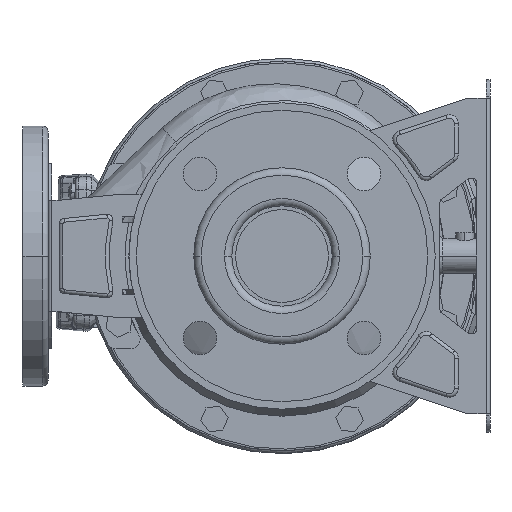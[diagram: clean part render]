
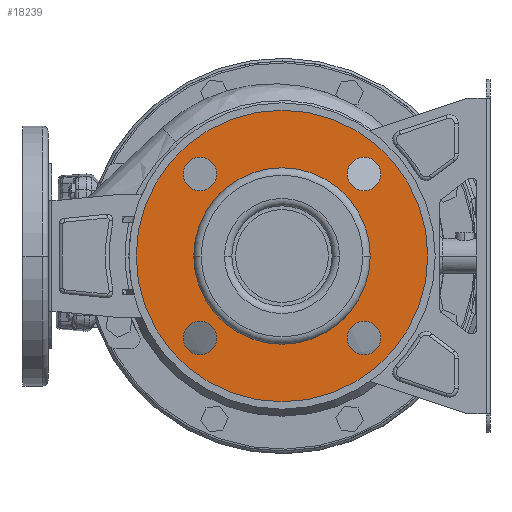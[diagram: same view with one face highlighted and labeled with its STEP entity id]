
A CAD part, front view. The second image highlights one B-rep face of the part: STEP entity #18239.
In plain terms, the highlighted planar face has unit normal (0, -1, 0).
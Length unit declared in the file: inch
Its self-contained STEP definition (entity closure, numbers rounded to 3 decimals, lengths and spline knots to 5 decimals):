
#2091 = CARTESIAN_POINT ( 'NONE',  ( -2.09426, -6.92913, -1.73993 ) ) ;
#2236 = CARTESIAN_POINT ( 'NONE',  ( 1.73993, -6.92913, -2.09426 ) ) ;
#4129 = VERTEX_POINT ( 'NONE', #73215 ) ;
#4185 = DIRECTION ( 'NONE',  ( 0., 0., -1. ) ) ;
#5114 = VERTEX_POINT ( 'NONE', #107449 ) ;
#5907 = CIRCLE ( 'NONE', #78642, 3.09055 ) ;
#6848 = DIRECTION ( 'NONE',  ( -1., 0., 0. ) ) ;
#6854 = ORIENTED_EDGE ( 'NONE', *, *, #68507, .F. ) ;
#8346 = CIRCLE ( 'NONE', #46585, 0.35433 ) ;
#13050 = DIRECTION ( 'NONE',  ( -1., 0., 0. ) ) ;
#13968 = EDGE_CURVE ( 'NONE', #49765, #28597, #63799, .T. ) ;
#14020 = EDGE_CURVE ( 'NONE', #114317, #110919, #37042, .T. ) ;
#14380 = ORIENTED_EDGE ( 'NONE', *, *, #78162, .T. ) ;
#16963 = FACE_BOUND ( 'NONE', #36563, .T. ) ;
#17275 = CIRCLE ( 'NONE', #30712, 0.35433 ) ;
#18124 = DIRECTION ( 'NONE',  ( -1., 0., 0. ) ) ;
#18239 = ADVANCED_FACE ( 'NONE', ( #106866, #61324, #117061, #34947, #88896, #16963 ), #63666, .F. ) ;
#22764 = CIRCLE ( 'NONE', #89734, 1.87008 ) ;
#24040 = CARTESIAN_POINT ( 'NONE',  ( 0., -6.92913, 0. ) ) ;
#24445 = CARTESIAN_POINT ( 'NONE',  ( 1.73993, -6.92913, 1.73993 ) ) ;
#24720 = DIRECTION ( 'NONE',  ( -1., 0., 0. ) ) ;
#24772 = CARTESIAN_POINT ( 'NONE',  ( -3.09055, -6.92913, 0. ) ) ;
#26217 = CARTESIAN_POINT ( 'NONE',  ( 1.73993, -6.92913, 1.73993 ) ) ;
#28025 = ORIENTED_EDGE ( 'NONE', *, *, #69640, .T. ) ;
#28597 = VERTEX_POINT ( 'NONE', #98030 ) ;
#30016 = VERTEX_POINT ( 'NONE', #24772 ) ;
#30208 = ORIENTED_EDGE ( 'NONE', *, *, #48459, .T. ) ;
#30712 = AXIS2_PLACEMENT_3D ( 'NONE', #51488, #113839, #4185 ) ;
#31728 = DIRECTION ( 'NONE',  ( 0., 0., 1. ) ) ;
#32008 = CIRCLE ( 'NONE', #49226, 3.09055 ) ;
#32233 = DIRECTION ( 'NONE',  ( 1., 0., 0. ) ) ;
#32243 = CARTESIAN_POINT ( 'NONE',  ( 0., -6.92913, 0. ) ) ;
#32668 = CIRCLE ( 'NONE', #86320, 0.35433 ) ;
#32816 = DIRECTION ( 'NONE',  ( 0., 1., 0. ) ) ;
#33408 = DIRECTION ( 'NONE',  ( 0., 0., 1. ) ) ;
#34947 = FACE_BOUND ( 'NONE', #63924, .T. ) ;
#35144 = AXIS2_PLACEMENT_3D ( 'NONE', #26217, #118506, #108327 ) ;
#36563 = EDGE_LOOP ( 'NONE', ( #88190, #28025 ) ) ;
#37042 = CIRCLE ( 'NONE', #79143, 0.35433 ) ;
#37217 = EDGE_CURVE ( 'NONE', #45595, #4129, #84298, .T. ) ;
#38091 = CIRCLE ( 'NONE', #99258, 0.35433 ) ;
#41752 = CARTESIAN_POINT ( 'NONE',  ( -1.87008, -6.92913, 0. ) ) ;
#43851 = ORIENTED_EDGE ( 'NONE', *, *, #37217, .T. ) ;
#44591 = VERTEX_POINT ( 'NONE', #105689 ) ;
#45595 = VERTEX_POINT ( 'NONE', #41752 ) ;
#45855 = ORIENTED_EDGE ( 'NONE', *, *, #53043, .T. ) ;
#45932 = CIRCLE ( 'NONE', #116701, 0.35433 ) ;
#46585 = AXIS2_PLACEMENT_3D ( 'NONE', #82964, #75777, #66185 ) ;
#47941 = AXIS2_PLACEMENT_3D ( 'NONE', #106824, #97849, #24720 ) ;
#48459 = EDGE_CURVE ( 'NONE', #30016, #44591, #32008, .T. ) ;
#49226 = AXIS2_PLACEMENT_3D ( 'NONE', #32243, #95185, #103598 ) ;
#49628 = EDGE_LOOP ( 'NONE', ( #66562, #64040 ) ) ;
#49765 = VERTEX_POINT ( 'NONE', #101203 ) ;
#51046 = DIRECTION ( 'NONE',  ( -1., 0., 0. ) ) ;
#51488 = CARTESIAN_POINT ( 'NONE',  ( -1.73993, -6.92913, 1.73993 ) ) ;
#53043 = EDGE_CURVE ( 'NONE', #91176, #71560, #32668, .T. ) ;
#56677 = VERTEX_POINT ( 'NONE', #2236 ) ;
#57991 = CARTESIAN_POINT ( 'NONE',  ( -1.73993, -6.92913, -1.73993 ) ) ;
#61324 = FACE_BOUND ( 'NONE', #84305, .T. ) ;
#61599 = DIRECTION ( 'NONE',  ( 1., 0., 0. ) ) ;
#61927 = AXIS2_PLACEMENT_3D ( 'NONE', #84426, #78961, #33408 ) ;
#63148 = CARTESIAN_POINT ( 'NONE',  ( 0., -6.92913, 0. ) ) ;
#63666 = PLANE ( 'NONE',  #77663 ) ;
#63799 = CIRCLE ( 'NONE', #61927, 0.35433 ) ;
#63924 = EDGE_LOOP ( 'NONE', ( #14380, #78518 ) ) ;
#64040 = ORIENTED_EDGE ( 'NONE', *, *, #14020, .T. ) ;
#65611 = EDGE_CURVE ( 'NONE', #110919, #114317, #38091, .T. ) ;
#66185 = DIRECTION ( 'NONE',  ( 0., 0., -1. ) ) ;
#66562 = ORIENTED_EDGE ( 'NONE', *, *, #65611, .T. ) ;
#67115 = DIRECTION ( 'NONE',  ( 0., 1., 0. ) ) ;
#67737 = CARTESIAN_POINT ( 'NONE',  ( 2.09426, -6.92913, 1.73993 ) ) ;
#68507 = EDGE_CURVE ( 'NONE', #45595, #4129, #22764, .T. ) ;
#68853 = EDGE_CURVE ( 'NONE', #5114, #56677, #45932, .T. ) ;
#69640 = EDGE_CURVE ( 'NONE', #28597, #49765, #17275, .T. ) ;
#71211 = DIRECTION ( 'NONE',  ( 0., 1., 0. ) ) ;
#71508 = DIRECTION ( 'NONE',  ( 0., 1., 0. ) ) ;
#71560 = VERTEX_POINT ( 'NONE', #91426 ) ;
#71563 = DIRECTION ( 'NONE',  ( 0., 1., 0. ) ) ;
#71935 = EDGE_CURVE ( 'NONE', #30016, #44591, #5907, .T. ) ;
#73215 = CARTESIAN_POINT ( 'NONE',  ( 1.87008, -6.92913, 0. ) ) ;
#74466 = ORIENTED_EDGE ( 'NONE', *, *, #71935, .F. ) ;
#75777 = DIRECTION ( 'NONE',  ( 0., 1., 0. ) ) ;
#76104 = EDGE_CURVE ( 'NONE', #71560, #91176, #86829, .T. ) ;
#77663 = AXIS2_PLACEMENT_3D ( 'NONE', #100221, #71508, #18124 ) ;
#78162 = EDGE_CURVE ( 'NONE', #56677, #5114, #8346, .T. ) ;
#78518 = ORIENTED_EDGE ( 'NONE', *, *, #68853, .T. ) ;
#78642 = AXIS2_PLACEMENT_3D ( 'NONE', #63148, #71563, #6848 ) ;
#78961 = DIRECTION ( 'NONE',  ( 0., 1., 0. ) ) ;
#79143 = AXIS2_PLACEMENT_3D ( 'NONE', #87374, #32816, #32233 ) ;
#82964 = CARTESIAN_POINT ( 'NONE',  ( 1.73993, -6.92913, -1.73993 ) ) ;
#84298 = CIRCLE ( 'NONE', #47941, 1.87008 ) ;
#84305 = EDGE_LOOP ( 'NONE', ( #6854, #43851 ) ) ;
#84426 = CARTESIAN_POINT ( 'NONE',  ( -1.73993, -6.92913, 1.73993 ) ) ;
#85824 = DIRECTION ( 'NONE',  ( 0., -1., 0. ) ) ;
#86320 = AXIS2_PLACEMENT_3D ( 'NONE', #24445, #71211, #61599 ) ;
#86829 = CIRCLE ( 'NONE', #35144, 0.35433 ) ;
#87374 = CARTESIAN_POINT ( 'NONE',  ( -1.73993, -6.92913, -1.73993 ) ) ;
#88190 = ORIENTED_EDGE ( 'NONE', *, *, #13968, .T. ) ;
#88896 = FACE_BOUND ( 'NONE', #49628, .T. ) ;
#89734 = AXIS2_PLACEMENT_3D ( 'NONE', #24040, #85824, #51046 ) ;
#91176 = VERTEX_POINT ( 'NONE', #67737 ) ;
#91426 = CARTESIAN_POINT ( 'NONE',  ( 1.3856, -6.92913, 1.73993 ) ) ;
#95185 = DIRECTION ( 'NONE',  ( 0., -1., 0. ) ) ;
#95814 = CARTESIAN_POINT ( 'NONE',  ( -1.3856, -6.92913, -1.73993 ) ) ;
#95843 = CARTESIAN_POINT ( 'NONE',  ( 1.73993, -6.92913, -1.73993 ) ) ;
#96557 = EDGE_LOOP ( 'NONE', ( #45855, #106747 ) ) ;
#97849 = DIRECTION ( 'NONE',  ( 0., 1., 0. ) ) ;
#98030 = CARTESIAN_POINT ( 'NONE',  ( -1.73993, -6.92913, 1.3856 ) ) ;
#99258 = AXIS2_PLACEMENT_3D ( 'NONE', #57991, #102950, #13050 ) ;
#99477 = EDGE_LOOP ( 'NONE', ( #74466, #30208 ) ) ;
#100221 = CARTESIAN_POINT ( 'NONE',  ( 0., -6.92913, 0. ) ) ;
#101203 = CARTESIAN_POINT ( 'NONE',  ( -1.73993, -6.92913, 2.09426 ) ) ;
#102950 = DIRECTION ( 'NONE',  ( 0., 1., 0. ) ) ;
#103598 = DIRECTION ( 'NONE',  ( -1., 0., 0. ) ) ;
#105689 = CARTESIAN_POINT ( 'NONE',  ( 3.09055, -6.92913, 0. ) ) ;
#106747 = ORIENTED_EDGE ( 'NONE', *, *, #76104, .T. ) ;
#106824 = CARTESIAN_POINT ( 'NONE',  ( 0., -6.92913, 0. ) ) ;
#106866 = FACE_OUTER_BOUND ( 'NONE', #99477, .T. ) ;
#107449 = CARTESIAN_POINT ( 'NONE',  ( 1.73993, -6.92913, -1.3856 ) ) ;
#108327 = DIRECTION ( 'NONE',  ( -1., 0., 0. ) ) ;
#110919 = VERTEX_POINT ( 'NONE', #2091 ) ;
#113839 = DIRECTION ( 'NONE',  ( 0., 1., 0. ) ) ;
#114317 = VERTEX_POINT ( 'NONE', #95814 ) ;
#116701 = AXIS2_PLACEMENT_3D ( 'NONE', #95843, #67115, #31728 ) ;
#117061 = FACE_BOUND ( 'NONE', #96557, .T. ) ;
#118506 = DIRECTION ( 'NONE',  ( 0., 1., 0. ) ) ;
